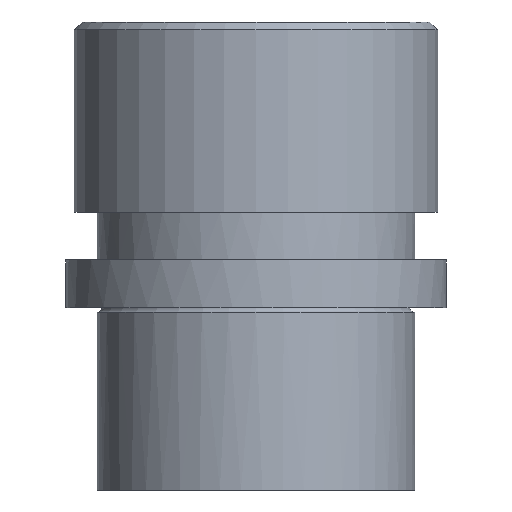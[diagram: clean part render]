
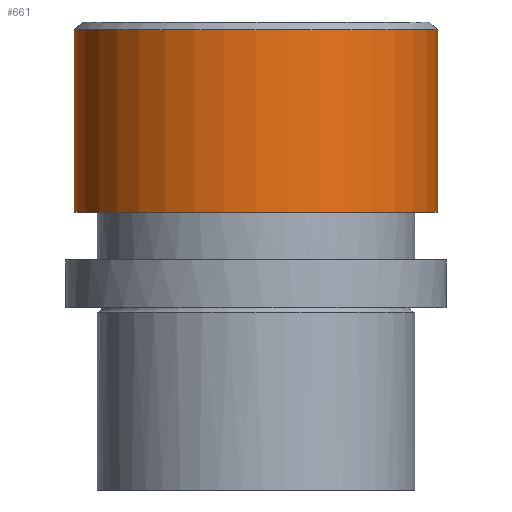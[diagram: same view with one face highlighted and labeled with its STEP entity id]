
A CAD part, front view. The second image highlights one B-rep face of the part: STEP entity #661.
In plain terms, the highlighted cylindrical face has radius 22.9 mm (diameter 45.8 mm), a partial arc.
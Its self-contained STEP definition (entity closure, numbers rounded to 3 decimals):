
#505=CARTESIAN_POINT('Vertex',(-22.9,0.,35.)) ;
#512=CARTESIAN_POINT('Vertex',(22.9,0.,35.)) ;
#532=CARTESIAN_POINT('Axis2P3D Location',(0.,0.,35.)) ;
#619=CARTESIAN_POINT('Line Origine',(-22.9,0.,36.)) ;
#623=CARTESIAN_POINT('Vertex',(-22.9,0.,12.)) ;
#626=CARTESIAN_POINT('Line Origine',(22.9,0.,36.)) ;
#630=CARTESIAN_POINT('Vertex',(22.9,0.,12.)) ;
#645=CARTESIAN_POINT('Axis2P3D Location',(0.,0.,36.)) ;
#650=CARTESIAN_POINT('Axis2P3D Location',(0.,0.,12.)) ;
#533=DIRECTION('Axis2P3D Direction',(0.,0.,-1.)) ;
#620=DIRECTION('Vector Direction',(0.,0.,-1.)) ;
#627=DIRECTION('Vector Direction',(0.,0.,-1.)) ;
#646=DIRECTION('Axis2P3D Direction',(0.,0.,-1.)) ;
#647=DIRECTION('Axis2P3D XDirection',(1.,0.,0.)) ;
#651=DIRECTION('Axis2P3D Direction',(0.,0.,-1.)) ;
#534=AXIS2_PLACEMENT_3D('Circle Axis2P3D',#532,#533,$) ;
#648=AXIS2_PLACEMENT_3D('Cylinder Axis2P3D',#645,#646,#647) ;
#652=AXIS2_PLACEMENT_3D('Circle Axis2P3D',#650,#651,$) ;
#656=ORIENTED_EDGE('',*,*,#632,.T.) ;
#657=ORIENTED_EDGE('',*,*,#536,.F.) ;
#658=ORIENTED_EDGE('',*,*,#625,.T.) ;
#659=ORIENTED_EDGE('',*,*,#654,.T.) ;
#621=VECTOR('Line Direction',#620,1.) ;
#628=VECTOR('Line Direction',#627,1.) ;
#661=ADVANCED_FACE('735-25',(#660),#649,.T.) ;
#535=CIRCLE('generated circle',#534,22.9) ;
#653=CIRCLE('generated circle',#652,22.9) ;
#649=CYLINDRICAL_SURFACE('generated cylinder',#648,22.9) ;
#536=EDGE_CURVE('',#506,#513,#535,.F.) ;
#625=EDGE_CURVE('',#506,#624,#622,.T.) ;
#632=EDGE_CURVE('',#631,#513,#629,.F.) ;
#654=EDGE_CURVE('',#624,#631,#653,.F.) ;
#655=EDGE_LOOP('',(#656,#657,#658,#659)) ;
#660=FACE_OUTER_BOUND('',#655,.T.) ;
#622=LINE('Line',#619,#621) ;
#629=LINE('Line',#626,#628) ;
#506=VERTEX_POINT('',#505) ;
#513=VERTEX_POINT('',#512) ;
#624=VERTEX_POINT('',#623) ;
#631=VERTEX_POINT('',#630) ;
